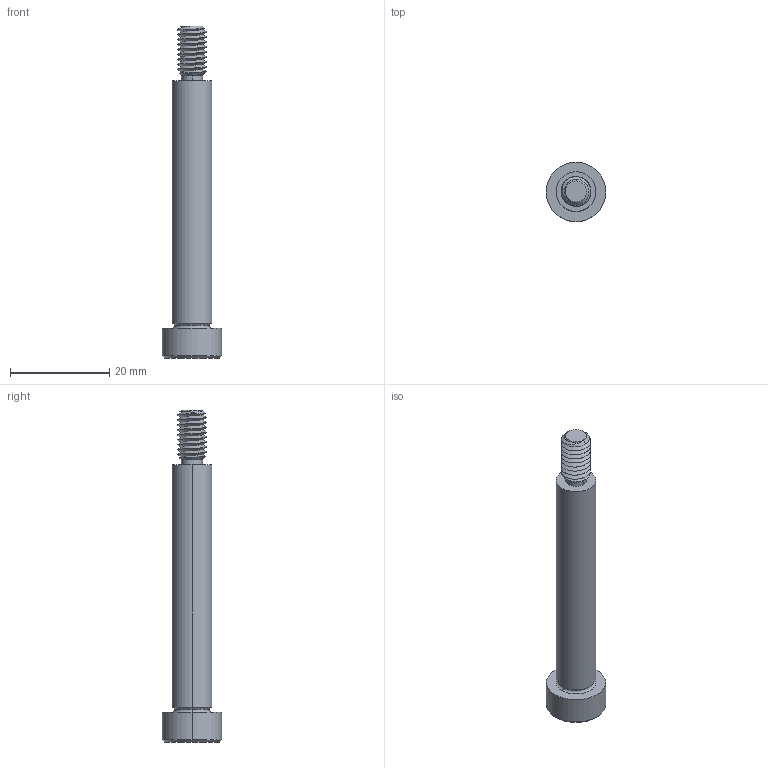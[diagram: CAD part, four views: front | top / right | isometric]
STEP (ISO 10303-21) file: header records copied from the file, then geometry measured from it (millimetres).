
FILE_DESCRIPTION (( 'STEP AP203' ), '1' );
FILE_NAME ('P0130.080-050-B2.step', '2021-11-09T21:41:59', ( '' ), ( '' ), 'SwSTEP 2.0', 'SolidWorks 2019', '' );
FILE_SCHEMA (( 'CONFIG_CONTROL_DESIGN' ));
Length unit declared in the file: millimetre
Products named in the file (1): P0130.080-050-B2
Bounding box: 12 x 12 x 67 mm (x, y, z)
Volume: 3343.9 mm3; surface area: 2089.5 mm2
Topology: 1 solids, 1 shells, 60 faces, 142 edges, 85 vertices
Faces by surface type: cylinder 24, plane 16, cone 14, torus 4, bspline 2
Entity records: 4245 total; most frequent: CARTESIAN_POINT 2899, ORIENTED_EDGE 280, DIRECTION 247, EDGE_CURVE 140, AXIS2_PLACEMENT_3D 99, VERTEX_POINT 85, EDGE_LOOP 63, ADVANCED_FACE 60
